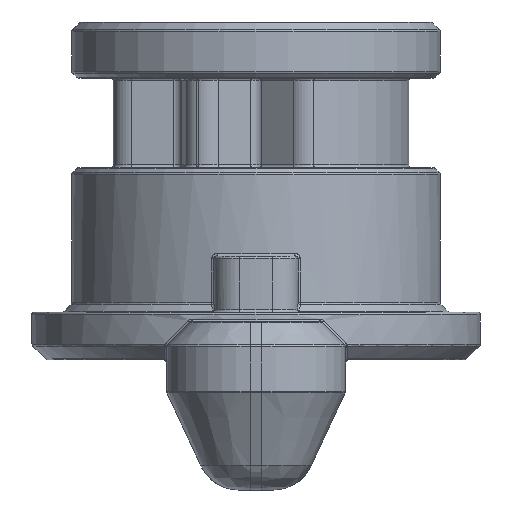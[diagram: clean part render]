
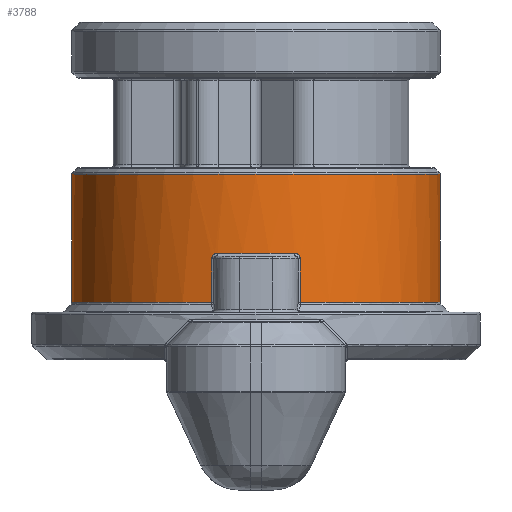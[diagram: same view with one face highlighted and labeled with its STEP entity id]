
A CAD part, front view. The second image highlights one B-rep face of the part: STEP entity #3788.
In plain terms, the highlighted cylindrical face has radius 6.575 mm (diameter 13.15 mm), a partial arc.
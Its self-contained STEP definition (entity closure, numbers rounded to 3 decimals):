
#319=DIRECTION('',(0.,0.,1.));
#320=VECTOR('',#319,4.567);
#321=CARTESIAN_POINT('',(6.575,0.,-13.309));
#322=LINE('',#321,#320);
#328=DIRECTION('',(0.,0.,1.));
#329=VECTOR('',#328,4.567);
#330=CARTESIAN_POINT('',(-6.575,0.,-13.309));
#331=LINE('',#330,#329);
#352=CARTESIAN_POINT('',(0.,0.,-13.309));
#353=DIRECTION('',(0.,0.,-1.));
#354=DIRECTION('',(-0.24,-0.971,0.));
#355=AXIS2_PLACEMENT_3D('',#352,#353,#354);
#357=CARTESIAN_POINT('',(0.,0.,-8.741));
#358=DIRECTION('',(0.,0.,-1.));
#359=DIRECTION('',(1.,0.,0.));
#360=AXIS2_PLACEMENT_3D('',#357,#358,#359);
#362=CARTESIAN_POINT('',(0.,0.,-13.309));
#363=DIRECTION('',(0.,0.,-1.));
#364=DIRECTION('',(1.,0.,0.));
#365=AXIS2_PLACEMENT_3D('',#362,#363,#364);
#367=DIRECTION('',(0.,0.,1.));
#368=VECTOR('',#367,1.559);
#369=CARTESIAN_POINT('',(1.576,-6.383,-13.309));
#370=LINE('',#369,#368);
#371=CARTESIAN_POINT('',(1.574,-6.384,-11.723));
#372=CARTESIAN_POINT('',(1.575,-6.384,-11.727));
#373=CARTESIAN_POINT('',(1.576,-6.383,-11.736));
#374=CARTESIAN_POINT('',(1.576,-6.383,-11.745));
#375=CARTESIAN_POINT('',(1.576,-6.383,-11.75));
#377=CARTESIAN_POINT('',(1.378,-6.429,-11.55));
#378=CARTESIAN_POINT('',(1.391,-6.426,-11.55));
#379=CARTESIAN_POINT('',(1.415,-6.421,-11.552));
#380=CARTESIAN_POINT('',(1.446,-6.414,-11.561));
#381=CARTESIAN_POINT('',(1.474,-6.408,-11.574));
#382=CARTESIAN_POINT('',(1.499,-6.402,-11.59));
#383=CARTESIAN_POINT('',(1.52,-6.397,-11.61));
#384=CARTESIAN_POINT('',(1.538,-6.393,-11.631));
#385=CARTESIAN_POINT('',(1.552,-6.389,-11.654));
#386=CARTESIAN_POINT('',(1.563,-6.387,-11.677));
#387=CARTESIAN_POINT('',(1.57,-6.385,-11.7));
#388=CARTESIAN_POINT('',(1.573,-6.384,-11.715));
#389=CARTESIAN_POINT('',(1.574,-6.384,-11.723));
#391=CARTESIAN_POINT('',(0.,0.,-11.55));
#392=DIRECTION('',(0.,0.,-1.));
#393=DIRECTION('',(0.21,-0.978,0.));
#394=AXIS2_PLACEMENT_3D('',#391,#392,#393);
#396=CARTESIAN_POINT('',(-1.576,-6.383,
-11.75));
#397=CARTESIAN_POINT('',(-1.576,-6.383,
-11.723));
#398=CARTESIAN_POINT('',(-1.566,-6.386,
-11.673));
#399=CARTESIAN_POINT('',(-1.523,-6.396,-11.605));
#400=CARTESIAN_POINT('',(-1.456,-6.412,
-11.561));
#401=CARTESIAN_POINT('',(-1.405,-6.423,
-11.55));
#402=CARTESIAN_POINT('',(-1.378,-6.429,-11.55));
#404=DIRECTION('',(0.,0.,-1.));
#405=VECTOR('',#404,1.559);
#406=CARTESIAN_POINT('',(-1.576,-6.383,
-11.75));
#407=LINE('',#406,#405);
#2954=CARTESIAN_POINT('',(-6.575,0.,-8.741));
#2955=CARTESIAN_POINT('',(6.575,0.,-8.741));
#2956=VERTEX_POINT('',#2954);
#2957=VERTEX_POINT('',#2955);
#3198=CARTESIAN_POINT('',(-1.576,-6.383,
-13.309));
#3199=CARTESIAN_POINT('',(-6.575,0.,-13.309));
#3200=VERTEX_POINT('',#3198);
#3201=VERTEX_POINT('',#3199);
#3202=CARTESIAN_POINT('',(6.575,0.,-13.309));
#3203=VERTEX_POINT('',#3202);
#3204=CARTESIAN_POINT('',(1.576,-6.383,
-13.309));
#3205=VERTEX_POINT('',#3204);
#3206=CARTESIAN_POINT('',(1.378,-6.429,-11.55));
#3207=CARTESIAN_POINT('',(-1.378,-6.429,-11.55));
#3208=VERTEX_POINT('',#3206);
#3209=VERTEX_POINT('',#3207);
#3214=CARTESIAN_POINT('',(-1.576,-6.383,
-11.75));
#3215=VERTEX_POINT('',#3214);
#3231=CARTESIAN_POINT('',(1.576,-6.383,-11.75));
#3232=VERTEX_POINT('',#3231);
#3245=VERTEX_POINT('',#371);
#3761=CARTESIAN_POINT('',(0.,0.,-16.885));
#3762=DIRECTION('',(0.,0.,1.));
#3763=DIRECTION('',(-1.,0.,0.));
#3764=AXIS2_PLACEMENT_3D('',#3761,#3762,#3763);
#3765=CYLINDRICAL_SURFACE('',#3764,6.575);
#3767=ORIENTED_EDGE('',*,*,#3766,.T.);
#3768=ORIENTED_EDGE('',*,*,#3714,.T.);
#3770=ORIENTED_EDGE('',*,*,#3769,.F.);
#3771=ORIENTED_EDGE('',*,*,#3710,.F.);
#3773=ORIENTED_EDGE('',*,*,#3772,.T.);
#3775=ORIENTED_EDGE('',*,*,#3774,.T.);
#3777=ORIENTED_EDGE('',*,*,#3776,.F.);
#3779=ORIENTED_EDGE('',*,*,#3778,.F.);
#3781=ORIENTED_EDGE('',*,*,#3780,.T.);
#3783=ORIENTED_EDGE('',*,*,#3782,.F.);
#3785=ORIENTED_EDGE('',*,*,#3784,.T.);
#3786=EDGE_LOOP('',(#3767,#3768,#3770,#3771,#3773,#3775,#3777,#3779,#3781,#3783,
#3785));
#3787=FACE_OUTER_BOUND('',#3786,.F.);
#3788=ADVANCED_FACE('',(#3787),#3765,.T.);
#356=CIRCLE('',#355,6.575);
#361=CIRCLE('',#360,6.575);
#366=CIRCLE('',#365,6.575);
#376=B_SPLINE_CURVE_WITH_KNOTS('',3,(#371,#372,#373,#374,#375),.UNSPECIFIED.,
.F.,.F.,(4,1,4),(0.,0.5,1.),.UNSPECIFIED.);
#390=B_SPLINE_CURVE_WITH_KNOTS('',3,(#377,#378,#379,#380,#381,#382,#383,#384,
#385,#386,#387,#388,#389),.UNSPECIFIED.,.F.,.F.,(4,1,1,1,1,1,1,1,1,1,4),(0.,
0.1,0.2,0.3,0.4,0.5,0.6,0.7,0.8,0.9,1.),.UNSPECIFIED.);
#395=CIRCLE('',#394,6.575);
#403=B_SPLINE_CURVE_WITH_KNOTS('',3,(#396,#397,#398,#399,#400,#401,#402),
.UNSPECIFIED.,.F.,.F.,(4,1,1,1,4),(0.,0.25,0.5,0.75,1.),
.UNSPECIFIED.);
#3710=EDGE_CURVE('',#3203,#2957,#322,.T.);
#3714=EDGE_CURVE('',#3201,#2956,#331,.T.);
#3766=EDGE_CURVE('',#3200,#3201,#356,.T.);
#3769=EDGE_CURVE('',#2957,#2956,#361,.T.);
#3772=EDGE_CURVE('',#3203,#3205,#366,.T.);
#3774=EDGE_CURVE('',#3205,#3232,#370,.T.);
#3776=EDGE_CURVE('',#3245,#3232,#376,.T.);
#3778=EDGE_CURVE('',#3208,#3245,#390,.T.);
#3780=EDGE_CURVE('',#3208,#3209,#395,.T.);
#3782=EDGE_CURVE('',#3215,#3209,#403,.T.);
#3784=EDGE_CURVE('',#3215,#3200,#407,.T.);
